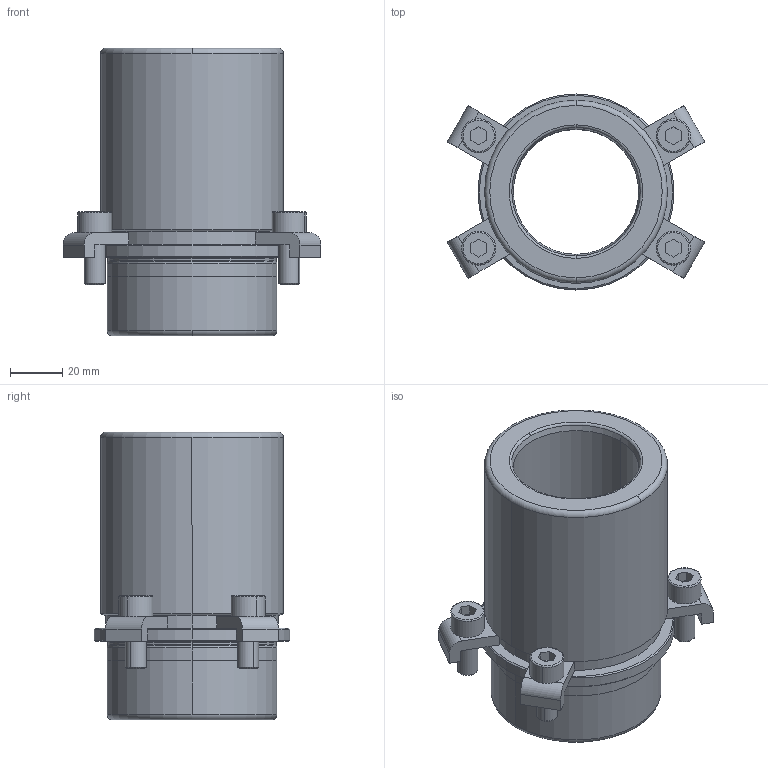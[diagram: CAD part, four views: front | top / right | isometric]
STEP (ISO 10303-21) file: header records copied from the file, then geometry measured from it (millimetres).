
FILE_DESCRIPTION((''),'2;1');
FILE_NAME('B40_040_080.stp','2009-01-05T16:38:19',(''),(''),'Mechanical Desktop 2009','Mechanical Desktop 2009',', , ');
FILE_SCHEMA(('CONFIG_CONTROL_DESIGN'));
Length unit declared in the file: millimetre
Products named in the file (2): Product; blmdl1
Assembly tree (1 placements, depth 2):
  Product
    blmdl1
Bounding box: 98.54 x 75 x 110 mm (x, y, z)
Volume: 221426 mm3; surface area: 54520 mm2
Topology: 9 solids, 9 shells, 173 faces, 422 edges, 278 vertices
Faces by surface type: plane 73, cylinder 50, cone 22, torus 16, bspline 12
Entity records: 5767 total; most frequent: CARTESIAN_POINT 1403, DIRECTION 966, ORIENTED_EDGE 844, EDGE_CURVE 422, AXIS2_PLACEMENT_3D 381, VERTEX_POINT 278, CIRCLE 218, VECTOR 204
